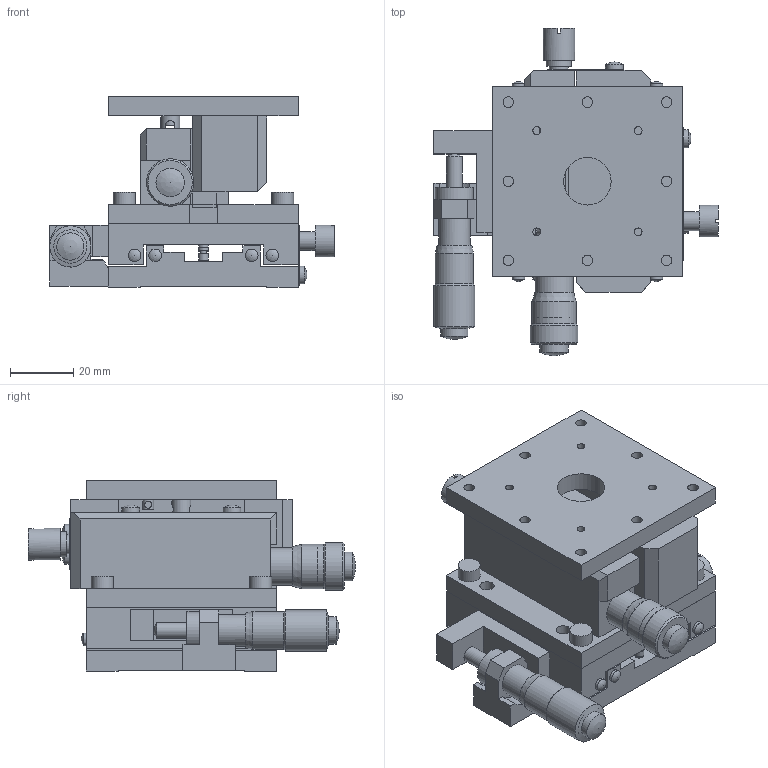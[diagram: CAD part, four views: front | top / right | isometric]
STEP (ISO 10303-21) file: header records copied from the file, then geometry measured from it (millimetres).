
FILE_DESCRIPTION( ( 'STEP AP203' ), '1' );
FILE_NAME( 'C:/3D-Trans/3D_B63-60C+090217.step', '2009-02-26T05:30:04', ( ' ' ), ( ' ' ), 'XStep 1.0', ' ', ' ' );
FILE_SCHEMA( ( 'CONFIG_CONTROL_DESIGN' ) );
Length unit declared in the file: millimetre
Products named in the file (7): 1; 2; 3; 4; 5; 6; 7
Bounding box: 89.8 x 103.3 x 60 mm (x, y, z)
Volume: 169838.9 mm3; surface area: 66993.1 mm2
Topology: 7 solids, 7 shells, 389 faces, 1017 edges, 675 vertices
Faces by surface type: plane 232, cylinder 123, sphere 18, cone 15, bspline 1
Full cylindrical faces by diameter (mm): 2 x2, 2.2 x2, 2.5 x8, 2.6 x1, 3 x6, 3.3 x22, 3.5 x2, 4 x11, 4.5 x8, 5 x4, 5.6 x6, 6 x3, 6.35 x1, 6.5 x1, 7 x4, 8 x7, 8.6 x1, 9 x2, 9.5 x1, 10 x6, 10.5 x1, 12 x4, 13 x1, 13.6 x1, 14 x1, 15 x3
Entity records: 11078 total; most frequent: CARTESIAN_POINT 2121, DIRECTION 1799, ORIENTED_EDGE 1528, EDGE_CURVE 764, AXIS2_PLACEMENT_3D 652, EDGE_LOOP 638, VERTEX_POINT 574, FACE_OUTER_BOUND 498
